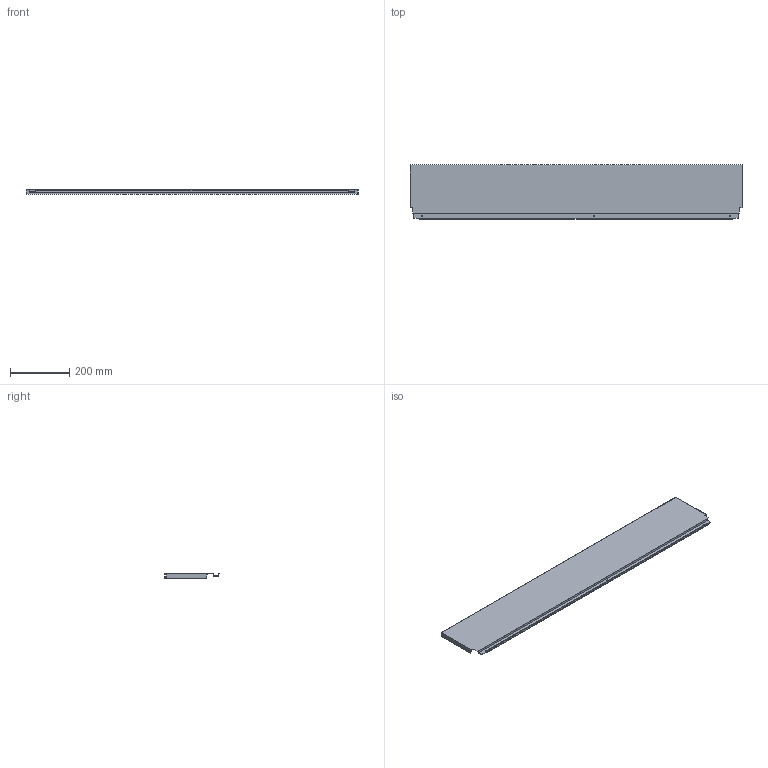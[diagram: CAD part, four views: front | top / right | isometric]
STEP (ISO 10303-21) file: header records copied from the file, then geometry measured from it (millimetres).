
FILE_DESCRIPTION (( 'STEP AP214' ), '1' );
FILE_NAME ('_DWD_XP Stahlrückwand_H182_KAB1200_S16.step', '2010-07-08T12:57:39', ( 'grass' ), ( '' ), 'SwSTEP 2.0', 'SolidWorks 2010', '' );
FILE_SCHEMA (( 'AUTOMOTIVE_DESIGN' ));
Length unit declared in the file: millimetre
Products named in the file (1): _DWD_XP Stahlrückwand_H182_KAB1200_S16
Bounding box: 1117 x 182.49 x 16 mm (x, y, z)
Volume: 209013.1 mm3; surface area: 482560.8 mm2
Topology: 1 solids, 1 shells, 46 faces, 132 edges, 88 vertices
Faces by surface type: plane 40, cylinder 6
Entity records: 1534 total; most frequent: CARTESIAN_POINT 267, ORIENTED_EDGE 264, DIRECTION 238, EDGE_CURVE 132, VECTOR 120, LINE 120, VERTEX_POINT 88, AXIS2_PLACEMENT_3D 59
